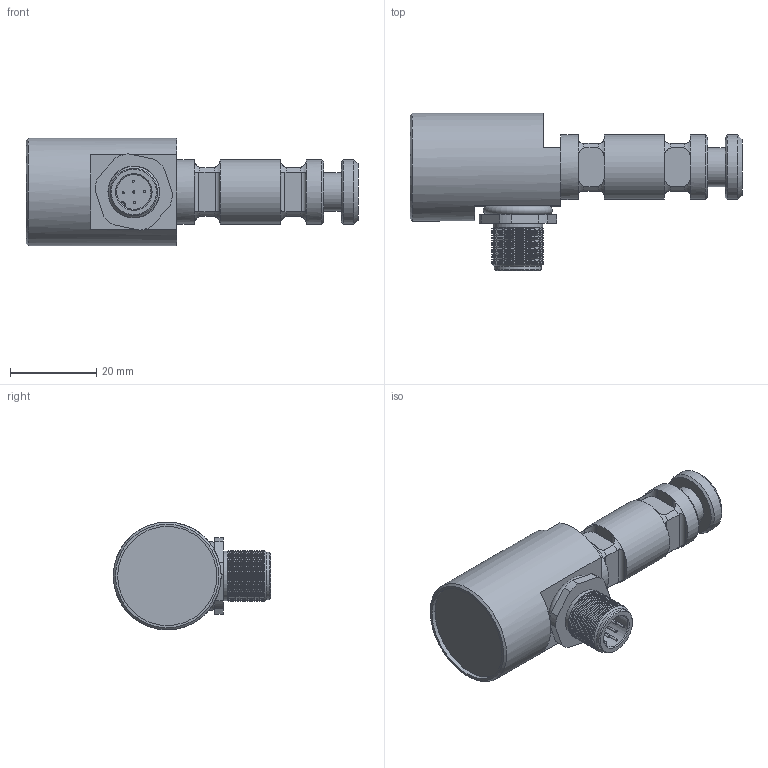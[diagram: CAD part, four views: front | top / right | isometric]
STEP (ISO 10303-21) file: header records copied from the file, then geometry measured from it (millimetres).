
FILE_DESCRIPTION(/* description */ ('Alibre Inc.'),/* implementation_level */ '2;1');
FILE_NAME(/* name */ 'export-857D3CE5-1808-4DE0-ADFE-2E9814A582C5',/* time_stamp */ '2021-09-27T15:38:51+02:00',/* author */ (''),/* organization */ (''),/* preprocessor_version */ 'ST-DEVELOPER v17',/* originating_system */ 'Alibre',/* authorisation */ '');
FILE_SCHEMA (('CONFIG_CONTROL_DESIGN'));
Length unit declared in the file: millimetre
Bounding box: 77 x 36.5 x 25 mm (x, y, z)
Surface area: 159936.3 mm2
Topology: 7 solids, 8 shells, 263 faces, 583 edges, 344 vertices
Faces by surface type: cylinder 91, plane 81, cone 73, torus 18
Full cylindrical faces by diameter (mm): 0.5 x10, 8 x2, 9 x1, 10 x1, 11 x1, 11.5 x1, 12 x21, 13 x2, 14.5 x1, 15 x4, 23 x1, 25 x1
Entity records: 7223 total; most frequent: CARTESIAN_POINT 2363, ORIENTED_EDGE 946, DIRECTION 762, EDGE_CURVE 467, EDGE_LOOP 383, FACE_BOUND 383, AXIS2_PLACEMENT_3D 353, VERTEX_POINT 328
